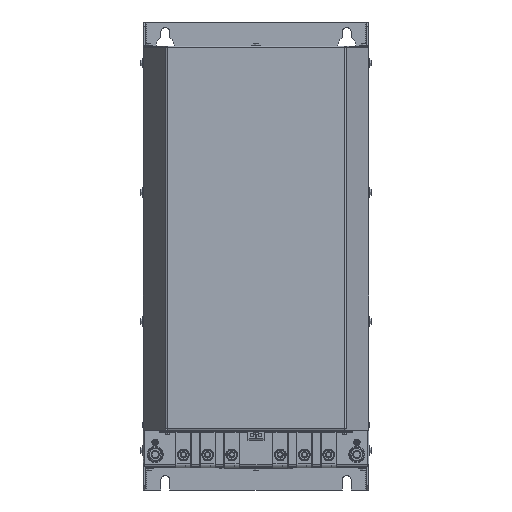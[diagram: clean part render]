
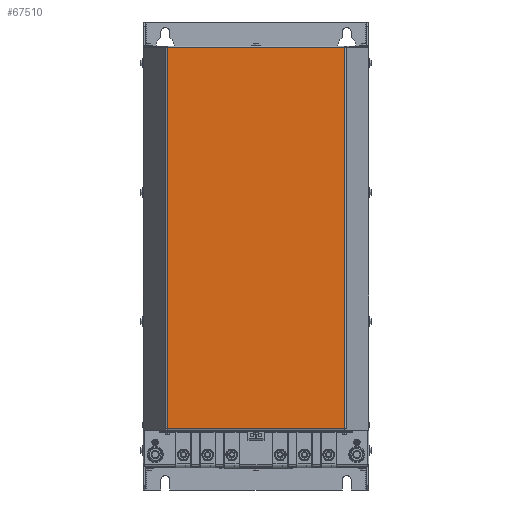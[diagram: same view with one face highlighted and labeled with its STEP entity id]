
A CAD part, front view. The second image highlights one B-rep face of the part: STEP entity #67510.
In plain terms, the highlighted planar face has unit normal (0, -1, 0).
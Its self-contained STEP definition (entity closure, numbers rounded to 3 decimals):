
#67471=CARTESIAN_POINT('',(110.093,-248.,-216.));
#67472=DIRECTION('',(0.0,-1.0,0.0));
#67473=DIRECTION('',(0.0,0.0,-1.0));
#67474=AXIS2_PLACEMENT_3D('',#67471,#67472,#67473);
#67475=PLANE('',#67474);
#67476=CARTESIAN_POINT('',(-110.093,-248.,-214.2));
#67477=VERTEX_POINT('',#67476);
#67478=CARTESIAN_POINT('',(110.093,-248.,-214.2));
#67479=VERTEX_POINT('',#67478);
#67480=CARTESIAN_POINT('',(-110.093,-248.,-214.2));
#67481=DIRECTION('',(1.0,0.0,0.0));
#67482=VECTOR('',#67481,220.187);
#67483=LINE('',#67480,#67482);
#67484=EDGE_CURVE('',#67477,#67479,#67483,.T.);
#67485=ORIENTED_EDGE('',*,*,#67484,.T.);
#67486=CARTESIAN_POINT('',(110.093,-248.,258.2));
#67487=VERTEX_POINT('',#67486);
#67488=CARTESIAN_POINT('',(110.093,-248.,-214.2));
#67489=DIRECTION('',(0.0,0.0,1.0));
#67490=VECTOR('',#67489,472.4);
#67491=LINE('',#67488,#67490);
#67492=EDGE_CURVE('',#67479,#67487,#67491,.T.);
#67493=ORIENTED_EDGE('',*,*,#67492,.T.);
#67494=CARTESIAN_POINT('',(-110.093,-248.,258.2));
#67495=VERTEX_POINT('',#67494);
#67496=CARTESIAN_POINT('',(110.093,-248.,258.2));
#67497=DIRECTION('',(-1.0,0.0,0.0));
#67498=VECTOR('',#67497,220.187);
#67499=LINE('',#67496,#67498);
#67500=EDGE_CURVE('',#67487,#67495,#67499,.T.);
#67501=ORIENTED_EDGE('',*,*,#67500,.T.);
#67502=CARTESIAN_POINT('',(-110.093,-248.,-214.2));
#67503=DIRECTION('',(0.0,0.0,1.0));
#67504=VECTOR('',#67503,472.4);
#67505=LINE('',#67502,#67504);
#67506=EDGE_CURVE('',#67477,#67495,#67505,.T.);
#67507=ORIENTED_EDGE('',*,*,#67506,.F.);
#67508=EDGE_LOOP('',(#67485,#67493,#67501,#67507));
#67509=FACE_OUTER_BOUND('',#67508,.T.);
#67510=ADVANCED_FACE('',(#67509),#67475,.T.);
